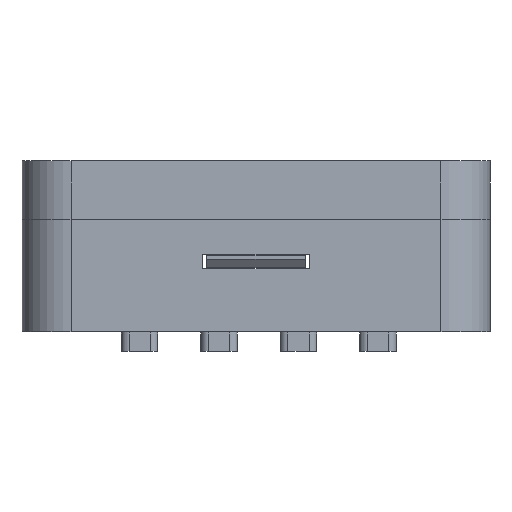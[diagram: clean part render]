
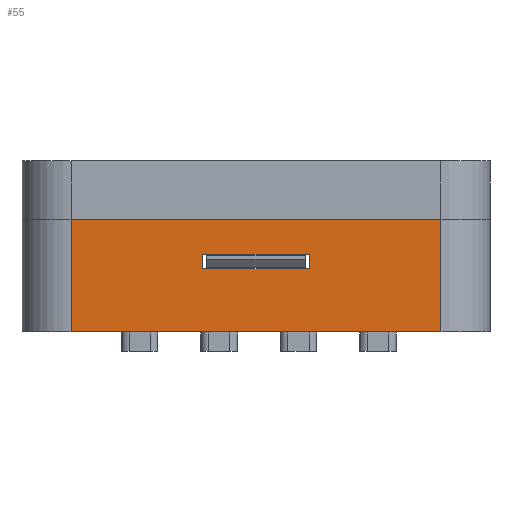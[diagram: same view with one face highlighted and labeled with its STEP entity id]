
A CAD part, left-side view. The second image highlights one B-rep face of the part: STEP entity #55.
In plain terms, the highlighted planar face has unit normal (-1, 0, 0).
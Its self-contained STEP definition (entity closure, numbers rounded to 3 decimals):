
#55 = ADVANCED_FACE('',(#56,#175),#70,.F.);
#56 = FACE_BOUND('',#57,.F.);
#57 = EDGE_LOOP('',(#58,#93,#121,#149));
#58 = ORIENTED_EDGE('',*,*,#59,.F.);
#59 = EDGE_CURVE('',#60,#62,#64,.T.);
#60 = VERTEX_POINT('',#61);
#61 = CARTESIAN_POINT('',(-25.65,-13.2,8.));
#62 = VERTEX_POINT('',#63);
#63 = CARTESIAN_POINT('',(-25.65,13.2,8.));
#64 = SURFACE_CURVE('',#65,(#69,#81),.PCURVE_S1.);
#65 = LINE('',#66,#67);
#66 = CARTESIAN_POINT('',(-25.65,-16.7,8.));
#67 = VECTOR('',#68,1.);
#68 = DIRECTION('',(0.,1.,0.));
#69 = PCURVE('',#70,#75);
#70 = PLANE('',#71);
#71 = AXIS2_PLACEMENT_3D('',#72,#73,#74);
#72 = CARTESIAN_POINT('',(-25.65,-16.7,0.));
#73 = DIRECTION('',(1.,0.,0.));
#74 = DIRECTION('',(0.,0.,1.));
#75 = DEFINITIONAL_REPRESENTATION('',(#76),#80);
#76 = LINE('',#77,#78);
#77 = CARTESIAN_POINT('',(8.,0.));
#78 = VECTOR('',#79,1.);
#79 = DIRECTION('',(0.,-1.));
#80 = ( GEOMETRIC_REPRESENTATION_CONTEXT(2) 
PARAMETRIC_REPRESENTATION_CONTEXT() REPRESENTATION_CONTEXT('2D SPACE',''
  ) );
#81 = PCURVE('',#82,#87);
#82 = PLANE('',#83);
#83 = AXIS2_PLACEMENT_3D('',#84,#85,#86);
#84 = CARTESIAN_POINT('',(-25.65,-16.7,8.));
#85 = DIRECTION('',(0.,0.,1.));
#86 = DIRECTION('',(1.,0.,0.));
#87 = DEFINITIONAL_REPRESENTATION('',(#88),#92);
#88 = LINE('',#89,#90);
#89 = CARTESIAN_POINT('',(0.,0.));
#90 = VECTOR('',#91,1.);
#91 = DIRECTION('',(0.,1.));
#92 = ( GEOMETRIC_REPRESENTATION_CONTEXT(2) 
PARAMETRIC_REPRESENTATION_CONTEXT() REPRESENTATION_CONTEXT('2D SPACE',''
  ) );
#93 = ORIENTED_EDGE('',*,*,#94,.F.);
#94 = EDGE_CURVE('',#95,#60,#97,.T.);
#95 = VERTEX_POINT('',#96);
#96 = CARTESIAN_POINT('',(-25.65,-13.2,0.));
#97 = SURFACE_CURVE('',#98,(#102,#109),.PCURVE_S1.);
#98 = LINE('',#99,#100);
#99 = CARTESIAN_POINT('',(-25.65,-13.2,0.));
#100 = VECTOR('',#101,1.);
#101 = DIRECTION('',(0.,0.,1.));
#102 = PCURVE('',#70,#103);
#103 = DEFINITIONAL_REPRESENTATION('',(#104),#108);
#104 = LINE('',#105,#106);
#105 = CARTESIAN_POINT('',(0.,-3.5));
#106 = VECTOR('',#107,1.);
#107 = DIRECTION('',(1.,0.));
#108 = ( GEOMETRIC_REPRESENTATION_CONTEXT(2) 
PARAMETRIC_REPRESENTATION_CONTEXT() REPRESENTATION_CONTEXT('2D SPACE',''
  ) );
#109 = PCURVE('',#110,#115);
#110 = CYLINDRICAL_SURFACE('',#111,3.5);
#111 = AXIS2_PLACEMENT_3D('',#112,#113,#114);
#112 = CARTESIAN_POINT('',(-22.15,-13.2,0.));
#113 = DIRECTION('',(0.,0.,1.));
#114 = DIRECTION('',(-1.,-0.,0.));
#115 = DEFINITIONAL_REPRESENTATION('',(#116),#120);
#116 = LINE('',#117,#118);
#117 = CARTESIAN_POINT('',(0.,0.));
#118 = VECTOR('',#119,1.);
#119 = DIRECTION('',(0.,1.));
#120 = ( GEOMETRIC_REPRESENTATION_CONTEXT(2) 
PARAMETRIC_REPRESENTATION_CONTEXT() REPRESENTATION_CONTEXT('2D SPACE',''
  ) );
#121 = ORIENTED_EDGE('',*,*,#122,.T.);
#122 = EDGE_CURVE('',#95,#123,#125,.T.);
#123 = VERTEX_POINT('',#124);
#124 = CARTESIAN_POINT('',(-25.65,13.2,0.));
#125 = SURFACE_CURVE('',#126,(#130,#137),.PCURVE_S1.);
#126 = LINE('',#127,#128);
#127 = CARTESIAN_POINT('',(-25.65,-16.7,0.));
#128 = VECTOR('',#129,1.);
#129 = DIRECTION('',(0.,1.,0.));
#130 = PCURVE('',#70,#131);
#131 = DEFINITIONAL_REPRESENTATION('',(#132),#136);
#132 = LINE('',#133,#134);
#133 = CARTESIAN_POINT('',(0.,0.));
#134 = VECTOR('',#135,1.);
#135 = DIRECTION('',(0.,-1.));
#136 = ( GEOMETRIC_REPRESENTATION_CONTEXT(2) 
PARAMETRIC_REPRESENTATION_CONTEXT() REPRESENTATION_CONTEXT('2D SPACE',''
  ) );
#137 = PCURVE('',#138,#143);
#138 = PLANE('',#139);
#139 = AXIS2_PLACEMENT_3D('',#140,#141,#142);
#140 = CARTESIAN_POINT('',(-25.65,-16.7,0.));
#141 = DIRECTION('',(0.,0.,1.));
#142 = DIRECTION('',(1.,0.,0.));
#143 = DEFINITIONAL_REPRESENTATION('',(#144),#148);
#144 = LINE('',#145,#146);
#145 = CARTESIAN_POINT('',(0.,0.));
#146 = VECTOR('',#147,1.);
#147 = DIRECTION('',(0.,1.));
#148 = ( GEOMETRIC_REPRESENTATION_CONTEXT(2) 
PARAMETRIC_REPRESENTATION_CONTEXT() REPRESENTATION_CONTEXT('2D SPACE',''
  ) );
#149 = ORIENTED_EDGE('',*,*,#150,.T.);
#150 = EDGE_CURVE('',#123,#62,#151,.T.);
#151 = SURFACE_CURVE('',#152,(#156,#163),.PCURVE_S1.);
#152 = LINE('',#153,#154);
#153 = CARTESIAN_POINT('',(-25.65,13.2,0.));
#154 = VECTOR('',#155,1.);
#155 = DIRECTION('',(0.,0.,1.));
#156 = PCURVE('',#70,#157);
#157 = DEFINITIONAL_REPRESENTATION('',(#158),#162);
#158 = LINE('',#159,#160);
#159 = CARTESIAN_POINT('',(0.,-29.9));
#160 = VECTOR('',#161,1.);
#161 = DIRECTION('',(1.,0.));
#162 = ( GEOMETRIC_REPRESENTATION_CONTEXT(2) 
PARAMETRIC_REPRESENTATION_CONTEXT() REPRESENTATION_CONTEXT('2D SPACE',''
  ) );
#163 = PCURVE('',#164,#169);
#164 = CYLINDRICAL_SURFACE('',#165,3.5);
#165 = AXIS2_PLACEMENT_3D('',#166,#167,#168);
#166 = CARTESIAN_POINT('',(-22.15,13.2,0.));
#167 = DIRECTION('',(0.,0.,1.));
#168 = DIRECTION('',(-1.,-0.,0.));
#169 = DEFINITIONAL_REPRESENTATION('',(#170),#174);
#170 = LINE('',#171,#172);
#171 = CARTESIAN_POINT('',(-0.,0.));
#172 = VECTOR('',#173,1.);
#173 = DIRECTION('',(-0.,1.));
#174 = ( GEOMETRIC_REPRESENTATION_CONTEXT(2) 
PARAMETRIC_REPRESENTATION_CONTEXT() REPRESENTATION_CONTEXT('2D SPACE',''
  ) );
#175 = FACE_BOUND('',#176,.F.);
#176 = EDGE_LOOP('',(#177,#205,#231,#257));
#177 = ORIENTED_EDGE('',*,*,#178,.T.);
#178 = EDGE_CURVE('',#179,#181,#183,.T.);
#179 = VERTEX_POINT('',#180);
#180 = CARTESIAN_POINT('',(-25.65,3.8,4.5));
#181 = VERTEX_POINT('',#182);
#182 = CARTESIAN_POINT('',(-25.65,-3.8,4.5));
#183 = SURFACE_CURVE('',#184,(#188,#194),.PCURVE_S1.);
#184 = LINE('',#185,#186);
#185 = CARTESIAN_POINT('',(-25.65,-10.25,4.5));
#186 = VECTOR('',#187,1.);
#187 = DIRECTION('',(0.,-1.,0.));
#188 = PCURVE('',#70,#189);
#189 = DEFINITIONAL_REPRESENTATION('',(#190),#193);
#190 = B_SPLINE_CURVE_WITH_KNOTS('',1,(#191,#192),.UNSPECIFIED.,.F.,.F.,
  (2,2),(-14.05,-6.45),.PIECEWISE_BEZIER_KNOTS.);
#191 = CARTESIAN_POINT('',(4.5,-20.5));
#192 = CARTESIAN_POINT('',(4.5,-12.9));
#193 = ( GEOMETRIC_REPRESENTATION_CONTEXT(2) 
PARAMETRIC_REPRESENTATION_CONTEXT() REPRESENTATION_CONTEXT('2D SPACE',''
  ) );
#194 = PCURVE('',#195,#200);
#195 = PLANE('',#196);
#196 = AXIS2_PLACEMENT_3D('',#197,#198,#199);
#197 = CARTESIAN_POINT('',(-25.85,-3.8,4.5));
#198 = DIRECTION('',(0.,0.,1.));
#199 = DIRECTION('',(1.,0.,0.));
#200 = DEFINITIONAL_REPRESENTATION('',(#201),#204);
#201 = B_SPLINE_CURVE_WITH_KNOTS('',1,(#202,#203),.UNSPECIFIED.,.F.,.F.,
  (2,2),(-14.05,-6.45),.PIECEWISE_BEZIER_KNOTS.);
#202 = CARTESIAN_POINT('',(0.2,7.6));
#203 = CARTESIAN_POINT('',(0.2,0.));
#204 = ( GEOMETRIC_REPRESENTATION_CONTEXT(2) 
PARAMETRIC_REPRESENTATION_CONTEXT() REPRESENTATION_CONTEXT('2D SPACE',''
  ) );
#205 = ORIENTED_EDGE('',*,*,#206,.T.);
#206 = EDGE_CURVE('',#181,#207,#209,.T.);
#207 = VERTEX_POINT('',#208);
#208 = CARTESIAN_POINT('',(-25.65,-3.8,5.52));
#209 = SURFACE_CURVE('',#210,(#214,#220),.PCURVE_S1.);
#210 = LINE('',#211,#212);
#211 = CARTESIAN_POINT('',(-25.65,-3.8,2.25));
#212 = VECTOR('',#213,1.);
#213 = DIRECTION('',(0.,0.,1.));
#214 = PCURVE('',#70,#215);
#215 = DEFINITIONAL_REPRESENTATION('',(#216),#219);
#216 = B_SPLINE_CURVE_WITH_KNOTS('',1,(#217,#218),.UNSPECIFIED.,.F.,.F.,
  (2,2),(2.25,3.27),.PIECEWISE_BEZIER_KNOTS.);
#217 = CARTESIAN_POINT('',(4.5,-12.9));
#218 = CARTESIAN_POINT('',(5.52,-12.9));
#219 = ( GEOMETRIC_REPRESENTATION_CONTEXT(2) 
PARAMETRIC_REPRESENTATION_CONTEXT() REPRESENTATION_CONTEXT('2D SPACE',''
  ) );
#220 = PCURVE('',#221,#226);
#221 = PLANE('',#222);
#222 = AXIS2_PLACEMENT_3D('',#223,#224,#225);
#223 = CARTESIAN_POINT('',(-25.85,-3.8,4.5));
#224 = DIRECTION('',(0.,1.,0.));
#225 = DIRECTION('',(0.,0.,1.));
#226 = DEFINITIONAL_REPRESENTATION('',(#227),#230);
#227 = B_SPLINE_CURVE_WITH_KNOTS('',1,(#228,#229),.UNSPECIFIED.,.F.,.F.,
  (2,2),(2.25,3.27),.PIECEWISE_BEZIER_KNOTS.);
#228 = CARTESIAN_POINT('',(0.,0.2));
#229 = CARTESIAN_POINT('',(1.02,0.2));
#230 = ( GEOMETRIC_REPRESENTATION_CONTEXT(2) 
PARAMETRIC_REPRESENTATION_CONTEXT() REPRESENTATION_CONTEXT('2D SPACE',''
  ) );
#231 = ORIENTED_EDGE('',*,*,#232,.F.);
#232 = EDGE_CURVE('',#233,#207,#235,.T.);
#233 = VERTEX_POINT('',#234);
#234 = CARTESIAN_POINT('',(-25.65,3.8,5.52));
#235 = SURFACE_CURVE('',#236,(#240,#246),.PCURVE_S1.);
#236 = LINE('',#237,#238);
#237 = CARTESIAN_POINT('',(-25.65,-10.25,5.52));
#238 = VECTOR('',#239,1.);
#239 = DIRECTION('',(0.,-1.,0.));
#240 = PCURVE('',#70,#241);
#241 = DEFINITIONAL_REPRESENTATION('',(#242),#245);
#242 = B_SPLINE_CURVE_WITH_KNOTS('',1,(#243,#244),.UNSPECIFIED.,.F.,.F.,
  (2,2),(-14.05,-6.45),.PIECEWISE_BEZIER_KNOTS.);
#243 = CARTESIAN_POINT('',(5.52,-20.5));
#244 = CARTESIAN_POINT('',(5.52,-12.9));
#245 = ( GEOMETRIC_REPRESENTATION_CONTEXT(2) 
PARAMETRIC_REPRESENTATION_CONTEXT() REPRESENTATION_CONTEXT('2D SPACE',''
  ) );
#246 = PCURVE('',#247,#252);
#247 = PLANE('',#248);
#248 = AXIS2_PLACEMENT_3D('',#249,#250,#251);
#249 = CARTESIAN_POINT('',(-25.85,-3.8,5.52));
#250 = DIRECTION('',(0.,0.,1.));
#251 = DIRECTION('',(1.,0.,0.));
#252 = DEFINITIONAL_REPRESENTATION('',(#253),#256);
#253 = B_SPLINE_CURVE_WITH_KNOTS('',1,(#254,#255),.UNSPECIFIED.,.F.,.F.,
  (2,2),(-14.05,-6.45),.PIECEWISE_BEZIER_KNOTS.);
#254 = CARTESIAN_POINT('',(0.2,7.6));
#255 = CARTESIAN_POINT('',(0.2,0.));
#256 = ( GEOMETRIC_REPRESENTATION_CONTEXT(2) 
PARAMETRIC_REPRESENTATION_CONTEXT() REPRESENTATION_CONTEXT('2D SPACE',''
  ) );
#257 = ORIENTED_EDGE('',*,*,#258,.F.);
#258 = EDGE_CURVE('',#179,#233,#259,.T.);
#259 = SURFACE_CURVE('',#260,(#264,#270),.PCURVE_S1.);
#260 = LINE('',#261,#262);
#261 = CARTESIAN_POINT('',(-25.65,3.8,2.25));
#262 = VECTOR('',#263,1.);
#263 = DIRECTION('',(0.,0.,1.));
#264 = PCURVE('',#70,#265);
#265 = DEFINITIONAL_REPRESENTATION('',(#266),#269);
#266 = B_SPLINE_CURVE_WITH_KNOTS('',1,(#267,#268),.UNSPECIFIED.,.F.,.F.,
  (2,2),(2.25,3.27),.PIECEWISE_BEZIER_KNOTS.);
#267 = CARTESIAN_POINT('',(4.5,-20.5));
#268 = CARTESIAN_POINT('',(5.52,-20.5));
#269 = ( GEOMETRIC_REPRESENTATION_CONTEXT(2) 
PARAMETRIC_REPRESENTATION_CONTEXT() REPRESENTATION_CONTEXT('2D SPACE',''
  ) );
#270 = PCURVE('',#271,#276);
#271 = PLANE('',#272);
#272 = AXIS2_PLACEMENT_3D('',#273,#274,#275);
#273 = CARTESIAN_POINT('',(-25.85,3.8,4.5));
#274 = DIRECTION('',(0.,1.,0.));
#275 = DIRECTION('',(0.,0.,1.));
#276 = DEFINITIONAL_REPRESENTATION('',(#277),#280);
#277 = B_SPLINE_CURVE_WITH_KNOTS('',1,(#278,#279),.UNSPECIFIED.,.F.,.F.,
  (2,2),(2.25,3.27),.PIECEWISE_BEZIER_KNOTS.);
#278 = CARTESIAN_POINT('',(0.,0.2));
#279 = CARTESIAN_POINT('',(1.02,0.2));
#280 = ( GEOMETRIC_REPRESENTATION_CONTEXT(2) 
PARAMETRIC_REPRESENTATION_CONTEXT() REPRESENTATION_CONTEXT('2D SPACE',''
  ) );
